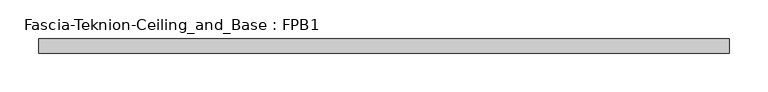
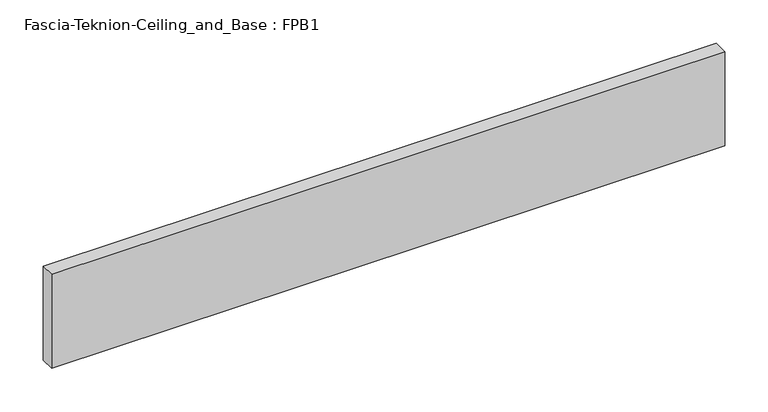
"""IFC4 building model written with IfcOpenShell, lengths in millimetres: proxy geometry, Fascia-Teknion-Ceiling_and_Base : FPB1."""

import ifcopenshell
import ifcopenshell.guid

model = None  # the IFC model being written
_history = None  # IfcOwnerHistory: only IFC2X3 demands one
_inside = {}  # id of a spatial element -> (the spatial element, [elements in it])
_under = {}  # id of a project, library or spatial element -> (it, [spatial elements below it])
_declared = {}  # id of a project -> (the project, [libraries it declares])
_typed = {}  # id of a type object -> (the type object, [elements of that type])
_made_of = {}  # id of a material, layer set ... -> (it, [elements and type objects made of it])


def new_model(schema):
    """Start an empty IFC model of exactly this schema.

    Asked for "IFC4X3", IfcOpenShell would pick the latest addendum, in which some entities
    have other attributes; the version numbers below select the first issue.
    IFC2X3 requires an IfcOwnerHistory on every rooted entity: one is made here for all.
    """
    global model, _history
    if schema == "IFC4X3":
        model = ifcopenshell.file(schema_version=(4, 3, 0, 0))
    else:
        model = ifcopenshell.file(schema=schema)
    _inside.clear()
    _under.clear()
    _declared.clear()
    _typed.clear()
    _made_of.clear()
    _history = None
    if model.schema == "IFC2X3":
        org = make("IfcOrganization", Name="unknown")
        user = make(
            "IfcPersonAndOrganization",
            ThePerson=make("IfcPerson", FamilyName="unknown"),
            TheOrganization=org,
        )
        app = make(
            "IfcApplication",
            ApplicationDeveloper=org,
            Version="unknown",
            ApplicationFullName="unknown",
            ApplicationIdentifier="unknown",
        )
        _history = make(
            "IfcOwnerHistory",
            OwningUser=user,
            OwningApplication=app,
            ChangeAction="ADDED",
            CreationDate=0,
        )
    return model


def make(cls, **values):
    """One entity of the class cls with the attributes given. An attribute that is None is left unset."""
    return model.create_entity(
        cls, **{name: value for name, value in values.items() if value is not None}
    )


def rooted(cls, **values):
    """An entity with a GlobalId (a new one), such as an element, a storey or a relation."""
    return make(cls, GlobalId=ifcopenshell.guid.new(), OwnerHistory=_history, **values)


def si_unit(unit_type, name, prefix=None):
    """IfcSIUnit, for example si_unit("LENGTHUNIT", "METRE", prefix="MILLI")."""
    return make("IfcSIUnit", UnitType=unit_type, Prefix=prefix, Name=name)


def assignment(units):
    """IfcUnitAssignment: the units of a project."""
    return None if units is None else make("IfcUnitAssignment", Units=units)


def point(xyz):
    """IfcCartesianPoint."""
    return None if xyz is None else make("IfcCartesianPoint", Coordinates=xyz)


def direction(xyz):
    """IfcDirection."""
    return None if xyz is None else make("IfcDirection", DirectionRatios=xyz)


def frame(location, z_axis=None, x_axis=None):
    """IfcAxis2Placement3D, a coordinate frame: its origin and axes. An axis left out is left unset."""
    return make(
        "IfcAxis2Placement3D",
        Location=point(location),
        Axis=direction(z_axis),
        RefDirection=direction(x_axis),
    )


def origin():
    """The frame at (0, 0, 0) with its axes left unset."""
    return frame((0.0, 0.0, 0.0))


def origin_with_axes():
    """The frame at (0, 0, 0) with the z axis (0, 0, 1) and the x axis (1, 0, 0) written out."""
    return frame((0.0, 0.0, 0.0), z_axis=(0.0, 0.0, 1.0), x_axis=(1.0, 0.0, 0.0))


def place(relative_to, where):
    """IfcLocalPlacement: puts the frame where relative to a parent placement (None: the world)."""
    return make(
        "IfcLocalPlacement", PlacementRelTo=relative_to, RelativePlacement=where
    )


def context(
    kind, dimensions, precision=None, world=None, true_north=None, identifier=None
):
    """IfcGeometricRepresentationContext, for example the 3D "Model" context."""
    return make(
        "IfcGeometricRepresentationContext",
        ContextIdentifier=identifier,
        ContextType=kind,
        CoordinateSpaceDimension=dimensions,
        Precision=precision,
        WorldCoordinateSystem=world,
        TrueNorth=true_north,
    )


def project(units=None, contexts=None):
    """IfcProject with its units and contexts."""
    return rooted(
        "IfcProject",
        Name="project",
        RepresentationContexts=contexts,
        UnitsInContext=assignment(units),
    )


def spatial(cls, under=None, at=None, **own):
    """A site, building, storey or space (cls), placed at a placement, below another one or the project."""
    s = rooted(cls, ObjectPlacement=at, **own)
    if under is not None:
        _under.setdefault(under.id(), (under, []))[1].append(s)
    return s


def polyline(points):
    """IfcPolyline through the points."""
    return make("IfcPolyline", Points=[point(p) for p in points])


def outline(outer, holes=None, kind="AREA"):
    """IfcArbitraryClosedProfileDef: a profile drawn as a closed curve; with holes, ...WithVoids."""
    if holes is None:
        return make("IfcArbitraryClosedProfileDef", ProfileType=kind, OuterCurve=outer)
    return make(
        "IfcArbitraryProfileDefWithVoids",
        ProfileType=kind,
        OuterCurve=outer,
        InnerCurves=holes,
    )


def extrude(swept, where, along, depth):
    """IfcExtrudedAreaSolid: the profile swept, set in the frame where, extruded along a direction by depth."""
    return make(
        "IfcExtrudedAreaSolid",
        SweptArea=swept,
        Position=where,
        ExtrudedDirection=direction(along),
        Depth=depth,
    )


def shape(context_of_items, identifier, shape_type, items):
    """IfcShapeRepresentation: the items that make up one representation, for example the "Body"."""
    return make(
        "IfcShapeRepresentation",
        ContextOfItems=context_of_items,
        RepresentationIdentifier=identifier,
        RepresentationType=shape_type,
        Items=items,
    )


def source(mapping_origin, context_of_items, identifier, shape_type, items):
    """IfcRepresentationMap: a shape defined once, which mapped items show again and again."""
    return make(
        "IfcRepresentationMap",
        MappingOrigin=mapping_origin,
        MappedRepresentation=shape(context_of_items, identifier, shape_type, items),
    )


def transform(
    local_origin,
    x_axis=None,
    y_axis=None,
    z_axis=None,
    scale=None,
    scale2=None,
    scale3=None,
    uniform=True,
):
    """IfcCartesianTransformationOperator3D, or its non-uniform kind. x_axis, y_axis, z_axis: its Axis1, 2, 3."""
    if uniform:
        return make(
            "IfcCartesianTransformationOperator3D",
            Axis1=direction(x_axis),
            Axis2=direction(y_axis),
            LocalOrigin=point(local_origin),
            Scale=scale,
            Axis3=direction(z_axis),
        )
    return make(
        "IfcCartesianTransformationOperator3DnonUniform",
        Axis1=direction(x_axis),
        Axis2=direction(y_axis),
        LocalOrigin=point(local_origin),
        Scale=scale,
        Axis3=direction(z_axis),
        Scale2=scale2,
        Scale3=scale3,
    )


def mapped(mapping_source, mapping_target):
    """IfcMappedItem: shows the shape of a source again, moved by a transform."""
    return make(
        "IfcMappedItem", MappingSource=mapping_source, MappingTarget=mapping_target
    )


def made_of(thing, what):
    """Note that an element or type object is made of a material, layer set ...; save() writes the relation."""
    if what is not None:
        _made_of.setdefault(what.id(), (what, []))[1].append(thing)
    return thing


def element(
    cls,
    number,
    at=None,
    inside=None,
    cuts=None,
    type_object=None,
    material=None,
    context=None,
    identifier="Body",
    shape_type=None,
    held_by="IfcProductDefinitionShape",
    body=None,
    shapes=None,
    **own,
):
    """One element of the class cls, such as IfcWall. Its Tag is "e" and its number.

    at: its placement. inside: the storey or other place that contains it. cuts: it is an
    opening in that element (IfcRelVoidsElement). A single representation is given by context,
    identifier, shape_type and body (its items); several are given by shapes. held_by: the class
    of the entity that holds the representations. save() writes the other relations.
    """
    e = rooted(cls, Tag="e%d" % number, ObjectPlacement=at, **own)
    if body is not None:
        shapes = [shape(context, identifier, shape_type, body)]
    if shapes is not None:
        e.Representation = make(held_by, Representations=shapes)
    if inside is not None:
        _inside.setdefault(inside.id(), (inside, []))[1].append(e)
    if cuts is not None:
        rooted(
            "IfcRelVoidsElement", RelatingBuildingElement=cuts, RelatedOpeningElement=e
        )
    if type_object is not None:
        _typed.setdefault(type_object.id(), (type_object, []))[1].append(e)
    return made_of(e, material)


def aggregate(whole, parts):
    """IfcRelAggregates: a whole, such as a stair, and the parts it consists of."""
    return rooted("IfcRelAggregates", RelatingObject=whole, RelatedObjects=parts)


def save(model, path):
    """Write the relations noted so far, then the file.

    IfcRelAggregates (storeys below a building ...), IfcRelContainedInSpatialStructure (elements
    in a storey), IfcRelDefinesByType, IfcRelAssociatesMaterial and IfcRelDeclares: one each for
    every whole, place, type object, material and project.
    """
    for whole, parts in _under.values():
        aggregate(whole, parts)
    for where, things in _inside.values():
        rooted(
            "IfcRelContainedInSpatialStructure",
            RelatedElements=things,
            RelatingStructure=where,
        )
    for kind, things in _typed.values():
        rooted("IfcRelDefinesByType", RelatedObjects=things, RelatingType=kind)
    for what, things in _made_of.values():
        rooted("IfcRelAssociatesMaterial", RelatedObjects=things, RelatingMaterial=what)
    for by, libraries in _declared.values():
        rooted("IfcRelDeclares", RelatingContext=by, RelatedDefinitions=libraries)
    model.write(path)


def fascia_teknion_ceiling_and_base_fpb1_53cd2d31(model_context):
    return source(origin(), model_context, "Body", "SweptSolid", [
        extrude(outline(polyline([(447.6198344, 0.0), (447.6198344, -19.05), (-447.6198344, -19.05), (-447.6198344, 0.0), (447.6198344, 0.0)])), origin_with_axes(), (0.0, 0.0, 1.0), 132.08),
    ])


if __name__ == "__main__":
    model = new_model("IFC4")
    model_context = context("Model", 3, world=origin())
    ifc_project = project(units=[si_unit("LENGTHUNIT", "METRE", prefix="MILLI")], contexts=[model_context])
    site = spatial("IfcSite", under=ifc_project)
    building = spatial("IfcBuilding", under=site)
    placement = place(None, origin())
    fascia_teknion_ceiling_and_base_fpb1_shape = fascia_teknion_ceiling_and_base_fpb1_53cd2d31(model_context)
    element("IfcBuildingElementProxy", 1, Name="Fascia-Teknion-Ceiling_and_Base : FPB1", ObjectType="Fascia-Teknion-Ceiling_and_Base : FPB1", at=placement, inside=building, context=model_context, shape_type="MappedRepresentation", body=[
        mapped(fascia_teknion_ceiling_and_base_fpb1_shape, transform((0.0, 0.0, 0.0), x_axis=(1.0, 0.0, 0.0), y_axis=(0.0, 1.0, 0.0), z_axis=(0.0, 0.0, 1.0))),
    ])
    save(model, "model.ifc")
